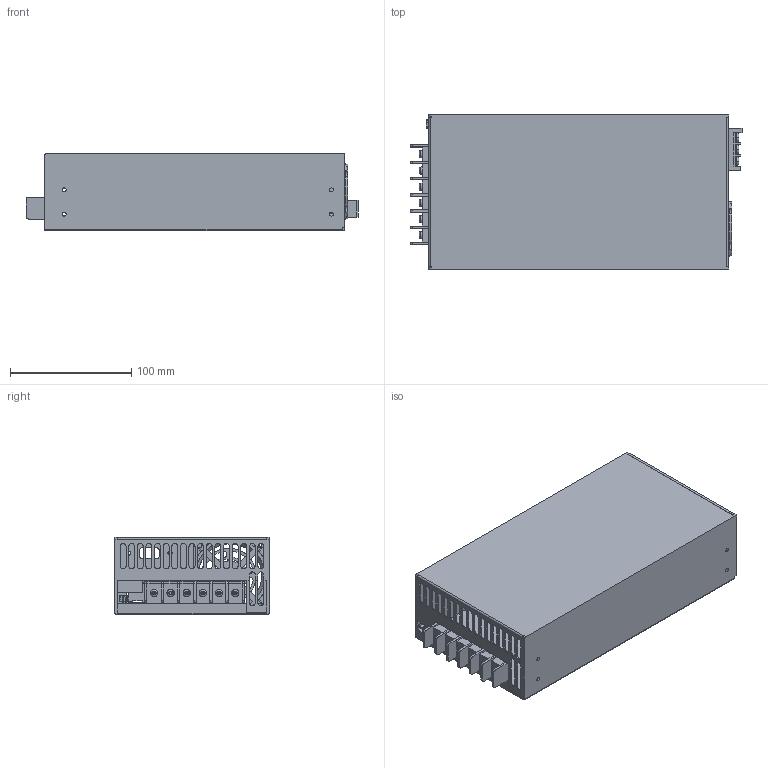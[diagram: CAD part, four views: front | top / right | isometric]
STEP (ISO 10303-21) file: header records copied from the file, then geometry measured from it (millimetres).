
FILE_DESCRIPTION(('Creo Elements/Direct Modeling STEP Export'),'2;1');
FILE_NAME('SE-600.stp','2022-08-16T17:32:00',(''),(''),'PTC Creo Elements/Direct Modeling STEP processor for AP214 (Solid Model)','PTC Creo Elements/Direct Modeling 19.0 09-May-2014 (C) Parametric Technology GmbH','');
FILE_SCHEMA(('AUTOMOTIVE_DESIGN { 1 0 10303 214 1 1 1 1 }'));
Length unit declared in the file: millimetre
Products named in the file (26): _X2_02CB_X0_T_X2_02CB_X0_W_S__Y.PRT; 1_2.PRT; P1.PRT; JS100107.ASM; PCB-2.ASM; P1_1.PRT; FAN_4715KL40WB30_2.PRT; FAN.PRT; FAN-ALL.ASM; A1-393780.ASM; MOS.PRT; A2.ASM; P2.PRT; _S_JU_S___.PRT; BASE.ASM; A3.ASM; HS3.PRT; HS2.PRT; HS1.PRT; HS4.PRT; 231.PRT; A1-118670.ASM; _S___S_O_S_JL.PRT; TN_1_1_1.PRT; SE-600_1.ASM; SE-600.stp
Assembly tree (27 placements, depth 6):
  SE-600.stp
    SE-600_1.ASM
      TN_1_1_1.PRT
      _S___S_O_S_JL.PRT
      A1-118670.ASM
        MOS.PRT
        231.PRT
        HS4.PRT
        HS1.PRT
        HS2.PRT
        HS3.PRT
      A3.ASM
        BASE.ASM
          _S_JU_S___.PRT
          P2.PRT
        A2.ASM
          MOS.PRT
        A1-393780.ASM
          FAN-ALL.ASM
            FAN.PRT
            FAN_4715KL40WB30_2.PRT
      P1_1.PRT
      PCB-2.ASM
        JS100107.ASM
          P1.PRT
          1_2.PRT  x2
      _X2_02CB_X0_T_X2_02CB_X0_W_S__Y.PRT
Bounding box: 273.45 x 127 x 63.5 mm (x, y, z)
Volume: 185386.3 mm3; surface area: 236202.9 mm2
Topology: 7 solids, 7 shells, 806 faces, 2214 edges, 1435 vertices
Faces by surface type: plane 511, cylinder 259, torus 18, cone 18
Entity records: 26623 total; most frequent: CARTESIAN_POINT 4832, ORIENTED_EDGE 4348, DIRECTION 4257, EDGE_CURVE 2174, VECTOR 1433, LINE 1433, AXIS2_PLACEMENT_3D 1412, VERTEX_POINT 1411
